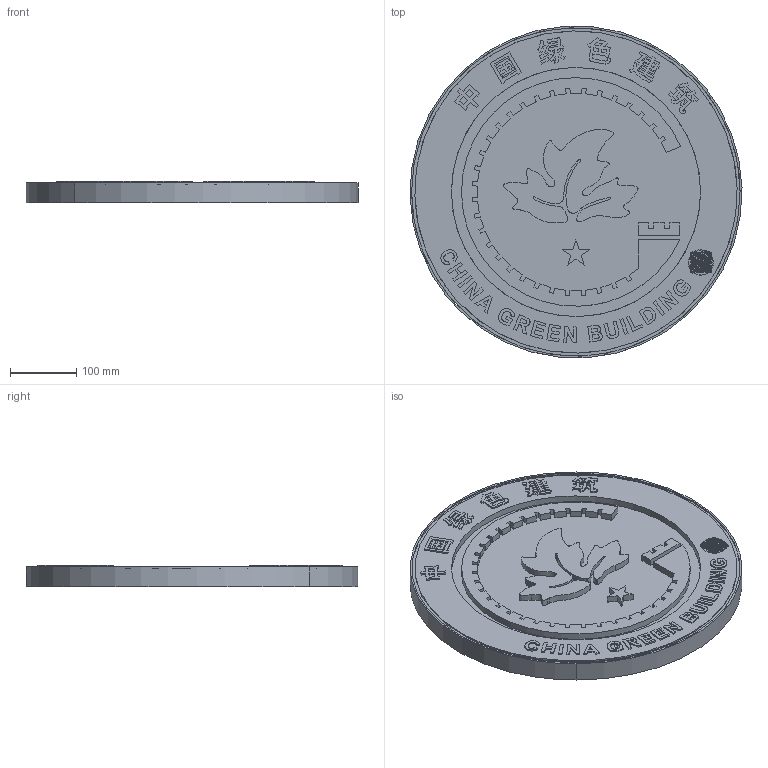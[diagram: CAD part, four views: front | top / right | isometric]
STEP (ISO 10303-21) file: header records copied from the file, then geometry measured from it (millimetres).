
FILE_DESCRIPTION(/* description */ (''),/* implementation_level */ '2;1');
FILE_NAME(/* name */ '一星（~1',/* time_stamp */ '2021-05-12T10:47:23+08:00',/* author */ (''),/* organization */ (''),/* preprocessor_version */ 'ST-DEVELOPER v15',/* originating_system */ '',/* authorisation */ '');
FILE_SCHEMA (('AUTOMOTIVE_DESIGN'));
Length unit declared in the file: millimetre
Products named in the file (1): Document
Bounding box: 499.79 x 498.89 x 32.25 mm (x, y, z)
Volume: 5127049.2 mm3; surface area: 814274.9 mm2
Topology: 291 solids, 291 shells, 2254 faces, 5016 edges, 3344 vertices
Faces by surface type: bspline 1463, plane 791
Entity records: 80138 total; most frequent: CARTESIAN_POINT 45153, ORIENTED_EDGE 10032, EDGE_CURVE 5016, B_SPLINE_CURVE_WITH_KNOTS 5016, VERTEX_POINT 3344, EDGE_LOOP 2296, ADVANCED_FACE 2254, FACE_OUTER_BOUND 2254
